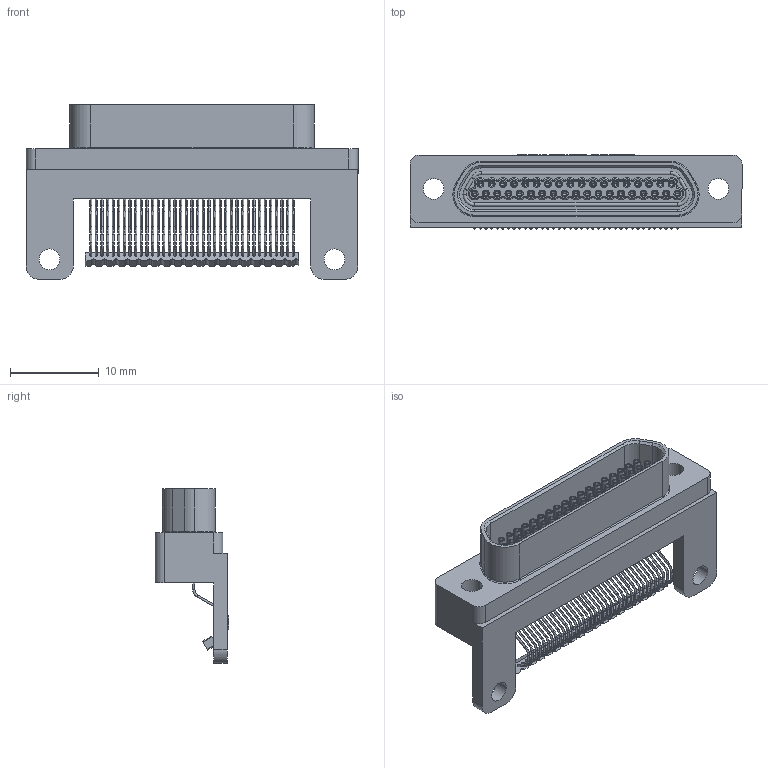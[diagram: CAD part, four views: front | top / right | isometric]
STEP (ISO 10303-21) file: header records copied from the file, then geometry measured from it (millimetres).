
FILE_DESCRIPTION (( 'STEP AP214' ), '1' );
FILE_NAME ('A99204-037 REV B.STEP', '2021-02-05T15:05:07', ( '' ), ( '' ), 'SwSTEP 2.0', 'SolidWorks 2019', '' );
FILE_SCHEMA (( 'AUTOMOTIVE_DESIGN' ));
Length unit declared in the file: inch
Products named in the file (1): A99204-037 REV B
Bounding box: 37.47 x 8.34 x 19.71 mm (x, y, z)
Volume: 2056.3 mm3; surface area: 3519 mm2
Topology: 1 solids, 4 shells, 1613 faces, 3875 edges, 2356 vertices
Faces by surface type: cylinder 783, torus 383, plane 314, cone 79, bspline 54
Entity records: 70766 total; most frequent: CARTESIAN_POINT 10971, DIRECTION 9053, ORIENTED_EDGE 7590, AXIS2_PLACEMENT_3D 3814, EDGE_CURVE 3795, VERTEX_POINT 2356, CIRCLE 2254, EDGE_LOOP 1861
